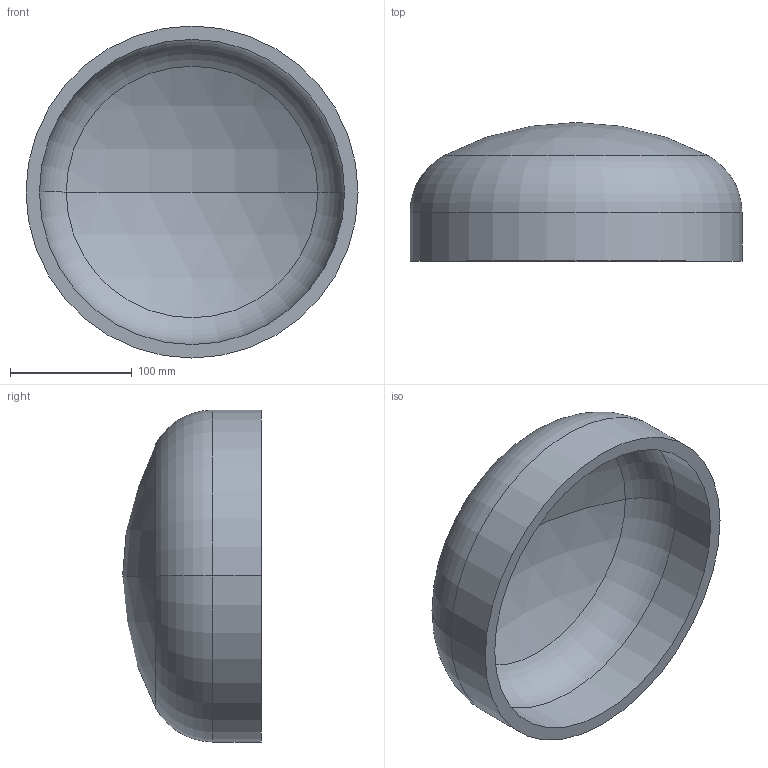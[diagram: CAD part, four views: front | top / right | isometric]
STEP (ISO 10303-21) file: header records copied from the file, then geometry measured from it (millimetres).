
FILE_DESCRIPTION (( 'STEP AP203' ), '1' );
FILE_NAME ('DIN 28013 Korbbogenform_-_Boden DIN 28013 - 273 x 40 - I - s=11.step', '2016-07-01T07:43:09', ( '' ), ( '' ), 'SwSTEP 2.0', 'SolidWorks 2013', '' );
FILE_SCHEMA (( 'CONFIG_CONTROL_DESIGN' ));
Length unit declared in the file: millimetre
Products named in the file (1): DIN 28013 Korbbogenform_-_Boden DIN 28013 - 273 x 40 - I - s=11
Bounding box: 273 x 114.07 x 273 mm (x, y, z)
Volume: 1208510.3 mm3; surface area: 229036.6 mm2
Topology: 1 solids, 1 shells, 13 faces, 24 edges, 14 vertices
Faces by surface type: torus 4, cylinder 4, sphere 4, plane 1
Entity records: 407 total; most frequent: DIRECTION 72, CARTESIAN_POINT 52, ORIENTED_EDGE 48, AXIS2_PLACEMENT_3D 34, EDGE_CURVE 24, CIRCLE 20, EDGE_LOOP 14, VERTEX_POINT 14
